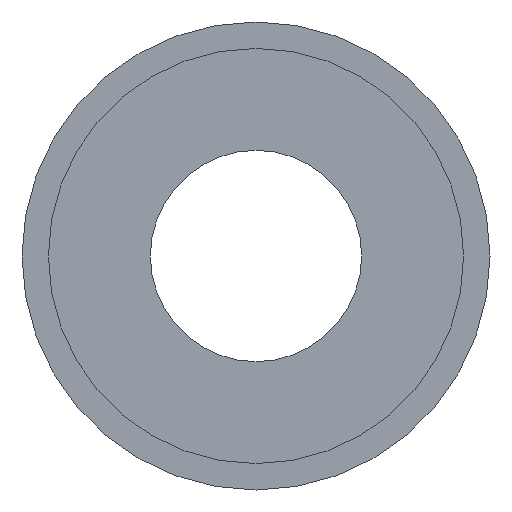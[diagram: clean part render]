
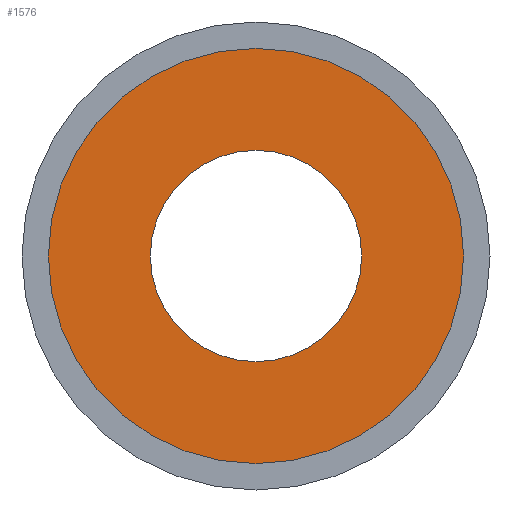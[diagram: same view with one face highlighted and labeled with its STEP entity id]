
A CAD part, front view. The second image highlights one B-rep face of the part: STEP entity #1576.
In plain terms, the highlighted planar face has unit normal (0, -1, 0).
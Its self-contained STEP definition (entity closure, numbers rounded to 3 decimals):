
#43 = DIRECTION ( 'NONE',  ( 0., 0., -1. ) ) ;
#104 = DIRECTION ( 'NONE',  ( 0., 1., 0. ) ) ;
#181 = AXIS2_PLACEMENT_3D ( 'NONE', #699, #1503, #716 ) ;
#317 = AXIS2_PLACEMENT_3D ( 'NONE', #1143, #1622, #831 ) ;
#386 = AXIS2_PLACEMENT_3D ( 'NONE', #724, #104, #1204 ) ;
#406 = PLANE ( 'NONE',  #386 ) ;
#469 = DIRECTION ( 'NONE',  ( 0., -1., 0. ) ) ;
#532 = CIRCLE ( 'NONE', #317, 27.5 ) ;
#589 = VERTEX_POINT ( 'NONE', #1668 ) ;
#594 = EDGE_CURVE ( 'NONE', #1792, #589, #1352, .T. ) ;
#609 = EDGE_LOOP ( 'NONE', ( #1508, #2036 ) ) ;
#699 = CARTESIAN_POINT ( 'NONE',  ( 0., -15., 0. ) ) ;
#707 = FACE_OUTER_BOUND ( 'NONE', #609, .T. ) ;
#716 = DIRECTION ( 'NONE',  ( 0., 0., -1. ) ) ;
#724 = CARTESIAN_POINT ( 'NONE',  ( 0., -15., 14. ) ) ;
#789 = AXIS2_PLACEMENT_3D ( 'NONE', #1946, #993, #43 ) ;
#831 = DIRECTION ( 'NONE',  ( 0., 0., -1. ) ) ;
#860 = AXIS2_PLACEMENT_3D ( 'NONE', #1724, #469, #1890 ) ;
#891 = ORIENTED_EDGE ( 'NONE', *, *, #1880, .F. ) ;
#896 = CIRCLE ( 'NONE', #789, 14. ) ;
#940 = ORIENTED_EDGE ( 'NONE', *, *, #2038, .F. ) ;
#993 = DIRECTION ( 'NONE',  ( 0., -1., 0. ) ) ;
#1068 = CIRCLE ( 'NONE', #860, 14. ) ;
#1078 = CARTESIAN_POINT ( 'NONE',  ( 0., -15., 27.5 ) ) ;
#1143 = CARTESIAN_POINT ( 'NONE',  ( 0., -15., 0. ) ) ;
#1204 = DIRECTION ( 'NONE',  ( 0., 0., 1. ) ) ;
#1352 = CIRCLE ( 'NONE', #181, 27.5 ) ;
#1393 = CARTESIAN_POINT ( 'NONE',  ( 0., -15., 14. ) ) ;
#1469 = EDGE_CURVE ( 'NONE', #589, #1792, #532, .T. ) ;
#1503 = DIRECTION ( 'NONE',  ( 0., -1., 0. ) ) ;
#1508 = ORIENTED_EDGE ( 'NONE', *, *, #1469, .T. ) ;
#1540 = VERTEX_POINT ( 'NONE', #1810 ) ;
#1576 = ADVANCED_FACE ( 'NONE', ( #1657, #707 ), #406, .F. ) ;
#1622 = DIRECTION ( 'NONE',  ( 0., -1., 0. ) ) ;
#1657 = FACE_BOUND ( 'NONE', #1936, .T. ) ;
#1668 = CARTESIAN_POINT ( 'NONE',  ( 0., -15., -27.5 ) ) ;
#1724 = CARTESIAN_POINT ( 'NONE',  ( 0., -15., 0. ) ) ;
#1792 = VERTEX_POINT ( 'NONE', #1078 ) ;
#1795 = VERTEX_POINT ( 'NONE', #1393 ) ;
#1810 = CARTESIAN_POINT ( 'NONE',  ( 0., -15., -14. ) ) ;
#1880 = EDGE_CURVE ( 'NONE', #1795, #1540, #1068, .T. ) ;
#1890 = DIRECTION ( 'NONE',  ( 0., 0., -1. ) ) ;
#1936 = EDGE_LOOP ( 'NONE', ( #940, #891 ) ) ;
#1946 = CARTESIAN_POINT ( 'NONE',  ( 0., -15., 0. ) ) ;
#2036 = ORIENTED_EDGE ( 'NONE', *, *, #594, .T. ) ;
#2038 = EDGE_CURVE ( 'NONE', #1540, #1795, #896, .T. ) ;
